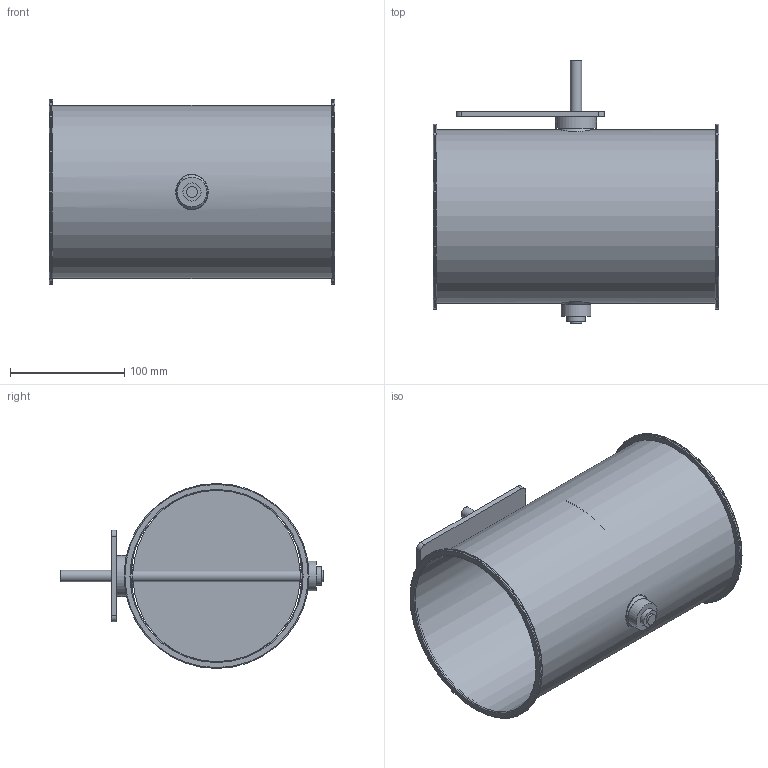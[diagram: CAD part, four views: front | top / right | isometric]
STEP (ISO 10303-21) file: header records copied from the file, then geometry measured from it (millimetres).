
FILE_DESCRIPTION(/* description */ (''),/* implementation_level */ '2;1');
FILE_NAME(/* name */ 'EA124-80B__150_L250_Belimo_Typ_LM.stp',/* time_stamp */ '2017-12-06T12:04:38+01:00',/* author */ (''),/* organization */ (''),/* preprocessor_version */ 'ST-DEVELOPER v11',/* originating_system */ 'SIEMENS UGS NX 6.0',/* authorisation */ '');
FILE_SCHEMA (('CONFIG_CONTROL_DESIGN'));
Length unit declared in the file: millimetre
Products named in the file (1): gars18E2j1x4
Bounding box: 250 x 231 x 162 mm (x, y, z)
Volume: 213758.6 mm3; surface area: 321673.9 mm2
Topology: 8 solids, 8 shells, 76 faces, 161 edges, 109 vertices
Faces by surface type: plane 30, cylinder 28, torus 10, cone 4, bspline 4
Full cylindrical faces by diameter (mm): 4.1 x4, 10 x3, 15 x3, 15.85 x2, 16 x2, 24 x2, 26 x1, 36 x1, 150 x1, 151.6 x1, 162 x2
Entity records: 2388 total; most frequent: CARTESIAN_POINT 865, DIRECTION 310, ORIENTED_EDGE 204, EDGE_LOOP 148, AXIS2_PLACEMENT_3D 143, FACE_BOUND 134, EDGE_CURVE 102, VERTEX_POINT 90
